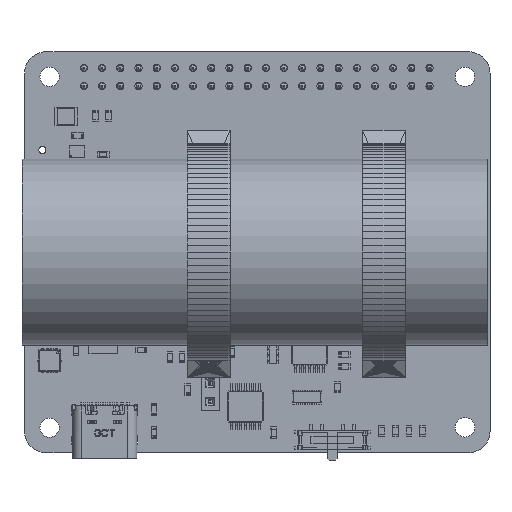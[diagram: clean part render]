
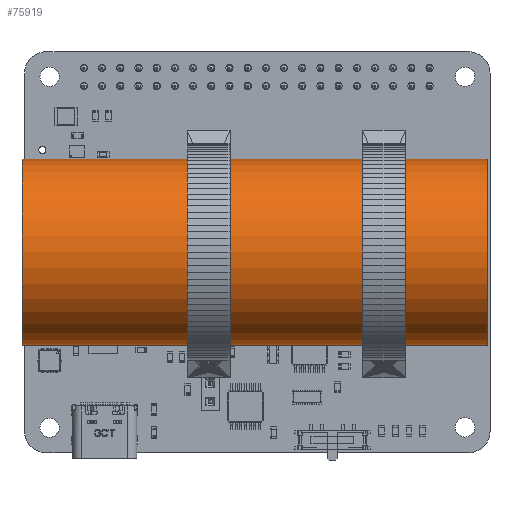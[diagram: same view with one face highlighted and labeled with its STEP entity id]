
A CAD part, top view. The second image highlights one B-rep face of the part: STEP entity #75919.
In plain terms, the highlighted cylindrical face has radius 13 mm (diameter 26 mm), a full revolution.
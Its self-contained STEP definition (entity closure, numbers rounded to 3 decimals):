
#75919 = ADVANCED_FACE('',(#75920),#75947,.T.);
#75920 = FACE_BOUND('',#75921,.T.);
#75921 = EDGE_LOOP('',(#75922,#75931,#75939,#75946));
#75922 = ORIENTED_EDGE('',*,*,#75923,.T.);
#75923 = EDGE_CURVE('',#75924,#75924,#75926,.T.);
#75924 = VERTEX_POINT('',#75925);
#75925 = CARTESIAN_POINT('',(13.,0.,0.));
#75926 = CIRCLE('',#75927,13.);
#75927 = AXIS2_PLACEMENT_3D('',#75928,#75929,#75930);
#75928 = CARTESIAN_POINT('',(0.,0.,0.));
#75929 = DIRECTION('',(0.,0.,1.));
#75930 = DIRECTION('',(1.,0.,-0.));
#75931 = ORIENTED_EDGE('',*,*,#75932,.T.);
#75932 = EDGE_CURVE('',#75924,#75933,#75935,.T.);
#75933 = VERTEX_POINT('',#75934);
#75934 = CARTESIAN_POINT('',(13.,0.,65.));
#75935 = LINE('',#75936,#75937);
#75936 = CARTESIAN_POINT('',(13.,0.,0.));
#75937 = VECTOR('',#75938,1.);
#75938 = DIRECTION('',(0.,0.,1.));
#75939 = ORIENTED_EDGE('',*,*,#75940,.F.);
#75940 = EDGE_CURVE('',#75933,#75933,#75941,.T.);
#75941 = CIRCLE('',#75942,13.);
#75942 = AXIS2_PLACEMENT_3D('',#75943,#75944,#75945);
#75943 = CARTESIAN_POINT('',(0.,0.,65.));
#75944 = DIRECTION('',(0.,0.,1.));
#75945 = DIRECTION('',(1.,0.,-0.));
#75946 = ORIENTED_EDGE('',*,*,#75932,.F.);
#75947 = CYLINDRICAL_SURFACE('',#75948,13.);
#75948 = AXIS2_PLACEMENT_3D('',#75949,#75950,#75951);
#75949 = CARTESIAN_POINT('',(0.,0.,0.));
#75950 = DIRECTION('',(-0.,-0.,-1.));
#75951 = DIRECTION('',(1.,0.,-0.));
